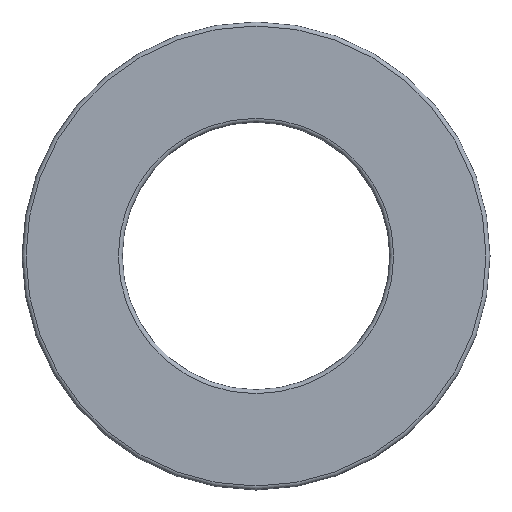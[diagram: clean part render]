
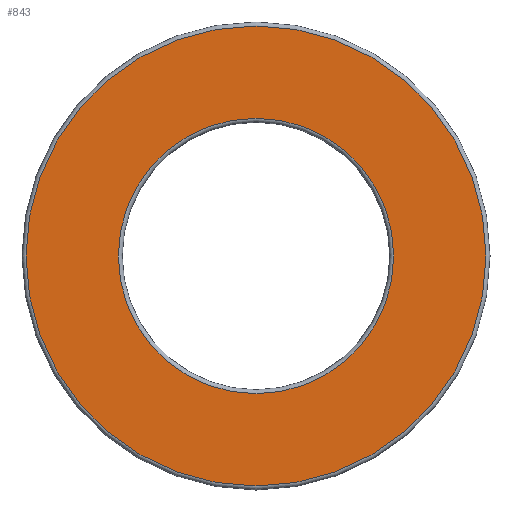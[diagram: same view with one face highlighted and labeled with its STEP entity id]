
A CAD part, front view. The second image highlights one B-rep face of the part: STEP entity #843.
In plain terms, the highlighted planar face has unit normal (0, -1, 0).
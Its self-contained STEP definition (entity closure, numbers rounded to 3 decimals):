
#116=PLANE('',#919);
#147=FACE_BOUND('',#308,.T.);
#239=FACE_OUTER_BOUND('',#307,.T.);
#307=EDGE_LOOP('',(#692));
#308=EDGE_LOOP('',(#693));
#454=CIRCLE('',#918,17.2);
#455=CIRCLE('',#920,10.3);
#531=VERTEX_POINT('',#1400);
#532=VERTEX_POINT('',#1403);
#609=EDGE_CURVE('',#531,#531,#454,.T.);
#610=EDGE_CURVE('',#532,#532,#455,.T.);
#692=ORIENTED_EDGE('',*,*,#609,.F.);
#693=ORIENTED_EDGE('',*,*,#610,.F.);
#843=ADVANCED_FACE('',(#239,#147),#116,.T.);
#918=AXIS2_PLACEMENT_3D('',#1401,#1092,#1093);
#919=AXIS2_PLACEMENT_3D('',#1402,#1094,#1095);
#920=AXIS2_PLACEMENT_3D('',#1404,#1096,#1097);
#1092=DIRECTION('center_axis',(0.,1.,0.));
#1093=DIRECTION('ref_axis',(-1.,0.,0.));
#1094=DIRECTION('center_axis',(0.,-1.,0.));
#1095=DIRECTION('ref_axis',(0.,0.,-1.));
#1096=DIRECTION('center_axis',(0.,-1.,0.));
#1097=DIRECTION('ref_axis',(-1.,0.,0.));
#1400=CARTESIAN_POINT('',(17.2,-5.,0.));
#1401=CARTESIAN_POINT('Origin',(0.,-5.,0.));
#1402=CARTESIAN_POINT('Origin',(10.,-5.,0.));
#1403=CARTESIAN_POINT('',(10.3,-5.,0.));
#1404=CARTESIAN_POINT('Origin',(0.,-5.,0.));
